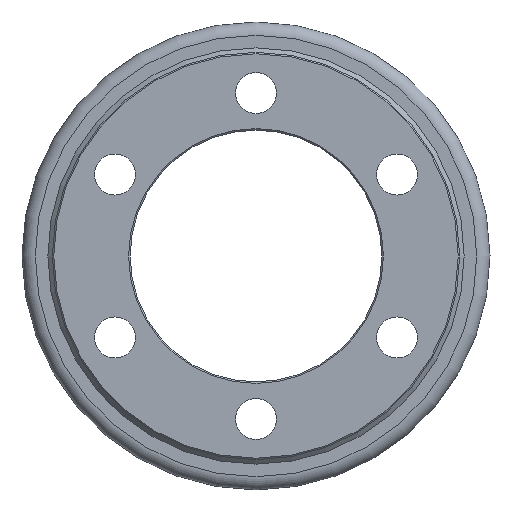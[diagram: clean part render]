
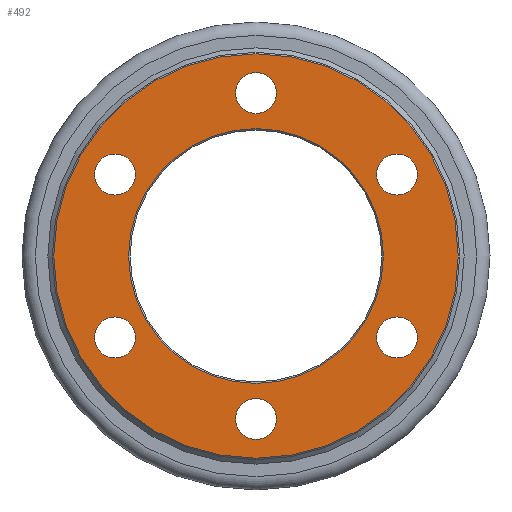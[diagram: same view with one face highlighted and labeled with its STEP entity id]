
A CAD part, left-side view. The second image highlights one B-rep face of the part: STEP entity #492.
In plain terms, the highlighted planar face has unit normal (-1, 0, 0) as drawn and (1, 0, 0) by its records, which use the part's own axes.
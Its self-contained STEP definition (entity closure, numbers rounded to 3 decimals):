
#492 = ADVANCED_FACE( '', ( #733, #734, #735, #736, #737, #738, #739, #740 ), #741, .T. );
#733 = FACE_BOUND( '', #871, .T. );
#734 = FACE_OUTER_BOUND( '', #872, .T. );
#735 = FACE_BOUND( '', #873, .T. );
#736 = FACE_BOUND( '', #874, .T. );
#737 = FACE_BOUND( '', #875, .T. );
#738 = FACE_BOUND( '', #876, .T. );
#739 = FACE_BOUND( '', #877, .T. );
#740 = FACE_BOUND( '', #878, .T. );
#741 = PLANE( '', #879 );
#871 = EDGE_LOOP( '', ( #1051 ) );
#872 = EDGE_LOOP( '', ( #1052 ) );
#873 = EDGE_LOOP( '', ( #1053 ) );
#874 = EDGE_LOOP( '', ( #1054 ) );
#875 = EDGE_LOOP( '', ( #1055 ) );
#876 = EDGE_LOOP( '', ( #1056 ) );
#877 = EDGE_LOOP( '', ( #1057 ) );
#878 = EDGE_LOOP( '', ( #1058 ) );
#879 = AXIS2_PLACEMENT_3D( '', #1059, #1060, #1061 );
#1051 = ORIENTED_EDGE( '', *, *, #1252, .T. );
#1052 = ORIENTED_EDGE( '', *, *, #1248, .T. );
#1053 = ORIENTED_EDGE( '', *, *, #1246, .F. );
#1054 = ORIENTED_EDGE( '', *, *, #1253, .F. );
#1055 = ORIENTED_EDGE( '', *, *, #1254, .F. );
#1056 = ORIENTED_EDGE( '', *, *, #1255, .F. );
#1057 = ORIENTED_EDGE( '', *, *, #1256, .F. );
#1058 = ORIENTED_EDGE( '', *, *, #1250, .F. );
#1059 = CARTESIAN_POINT( '', ( 22., 0., 68.75 ) );
#1060 = DIRECTION( '', ( 1., 0., 0. ) );
#1061 = DIRECTION( '', ( 0., 0., -1. ) );
#1246 = EDGE_CURVE( '', #1378, #1378, #1379, .T. );
#1248 = EDGE_CURVE( '', #1382, #1382, #1383, .T. );
#1250 = EDGE_CURVE( '', #1386, #1386, #1387, .T. );
#1252 = EDGE_CURVE( '', #1390, #1390, #1391, .F. );
#1253 = EDGE_CURVE( '', #1392, #1392, #1393, .T. );
#1254 = EDGE_CURVE( '', #1394, #1394, #1395, .T. );
#1255 = EDGE_CURVE( '', #1396, #1396, #1397, .T. );
#1256 = EDGE_CURVE( '', #1398, #1398, #1399, .T. );
#1378 = VERTEX_POINT( '', #1426 );
#1379 = CIRCLE( '', #1427, 6.918 );
#1382 = VERTEX_POINT( '', #1430 );
#1383 = CIRCLE( '', #1431, 68.25 );
#1386 = VERTEX_POINT( '', #1434 );
#1387 = CIRCLE( '', #1435, 6.918 );
#1390 = VERTEX_POINT( '', #1438 );
#1391 = CIRCLE( '', #1439, 43. );
#1392 = VERTEX_POINT( '', #1440 );
#1393 = CIRCLE( '', #1441, 6.918 );
#1394 = VERTEX_POINT( '', #1442 );
#1395 = CIRCLE( '', #1443, 6.918 );
#1396 = VERTEX_POINT( '', #1444 );
#1397 = CIRCLE( '', #1445, 6.918 );
#1398 = VERTEX_POINT( '', #1446 );
#1399 = CIRCLE( '', #1447, 6.918 );
#1426 = CARTESIAN_POINT( '', ( 22., 51.09, 21.509 ) );
#1427 = AXIS2_PLACEMENT_3D( '', #1474, #1475, #1476 );
#1430 = CARTESIAN_POINT( '', ( 22., 0., -68.25 ) );
#1431 = AXIS2_PLACEMENT_3D( '', #1480, #1481, #1482 );
#1434 = CARTESIAN_POINT( '', ( 22., 6.918, 55. ) );
#1435 = AXIS2_PLACEMENT_3D( '', #1486, #1487, #1488 );
#1438 = CARTESIAN_POINT( '', ( 22., 0., -43. ) );
#1439 = AXIS2_PLACEMENT_3D( '', #1492, #1493, #1494 );
#1440 = CARTESIAN_POINT( '', ( 22., 44.173, -33.491 ) );
#1441 = AXIS2_PLACEMENT_3D( '', #1495, #1496, #1497 );
#1442 = CARTESIAN_POINT( '', ( 22., -6.918, -55. ) );
#1443 = AXIS2_PLACEMENT_3D( '', #1498, #1499, #1500 );
#1444 = CARTESIAN_POINT( '', ( 22., -51.09, -21.509 ) );
#1445 = AXIS2_PLACEMENT_3D( '', #1501, #1502, #1503 );
#1446 = CARTESIAN_POINT( '', ( 22., -44.173, 33.491 ) );
#1447 = AXIS2_PLACEMENT_3D( '', #1504, #1505, #1506 );
#1474 = CARTESIAN_POINT( '', ( 22., 47.631, 27.5 ) );
#1475 = DIRECTION( '', ( 1., 0., 0. ) );
#1476 = DIRECTION( '', ( 0., 0.5, -0.866 ) );
#1480 = CARTESIAN_POINT( '', ( 22., 0., 0. ) );
#1481 = DIRECTION( '', ( 1., 0., 0. ) );
#1482 = DIRECTION( '', ( 0., 0., -1. ) );
#1486 = CARTESIAN_POINT( '', ( 22., 0., 55. ) );
#1487 = DIRECTION( '', ( 1., 0., 0. ) );
#1488 = DIRECTION( '', ( 0., 1., 0. ) );
#1492 = CARTESIAN_POINT( '', ( 22., 0., 0. ) );
#1493 = DIRECTION( '', ( 1., 0., 0. ) );
#1494 = DIRECTION( '', ( 0., 0., -1. ) );
#1495 = CARTESIAN_POINT( '', ( 22., 47.631, -27.5 ) );
#1496 = DIRECTION( '', ( 1., 0., 0. ) );
#1497 = DIRECTION( '', ( 0., -0.5, -0.866 ) );
#1498 = CARTESIAN_POINT( '', ( 22., 0., -55. ) );
#1499 = DIRECTION( '', ( 1., 0., 0. ) );
#1500 = DIRECTION( '', ( 0., -1., 0. ) );
#1501 = CARTESIAN_POINT( '', ( 22., -47.631, -27.5 ) );
#1502 = DIRECTION( '', ( 1., 0., 0. ) );
#1503 = DIRECTION( '', ( 0., -0.5, 0.866 ) );
#1504 = CARTESIAN_POINT( '', ( 22., -47.631, 27.5 ) );
#1505 = DIRECTION( '', ( 1., 0., 0. ) );
#1506 = DIRECTION( '', ( 0., 0.5, 0.866 ) );
